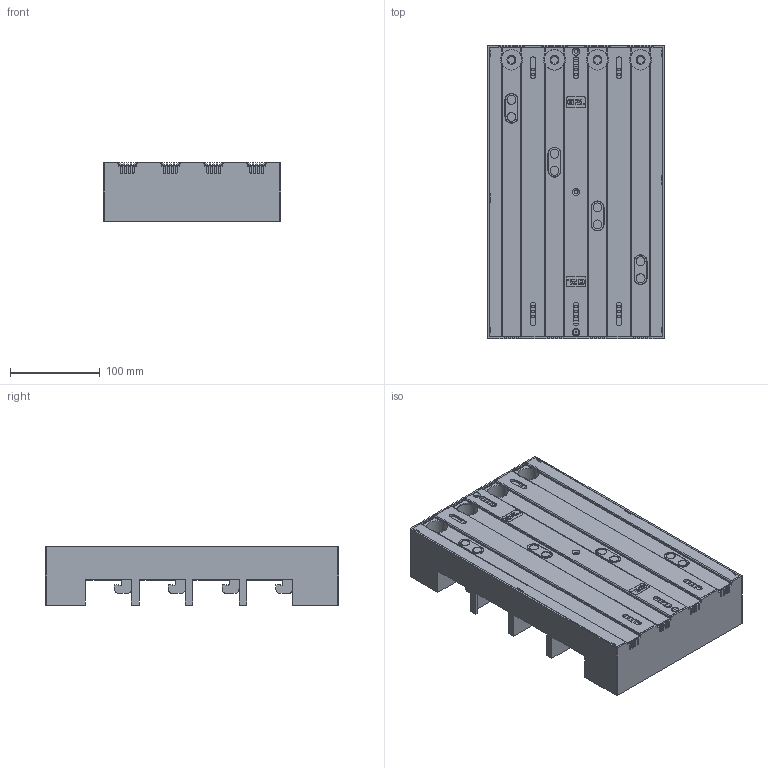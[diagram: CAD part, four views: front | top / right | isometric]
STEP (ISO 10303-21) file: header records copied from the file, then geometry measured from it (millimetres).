
FILE_DESCRIPTION (( 'STEP AP203' ), '1' );
FILE_NAME ('55186.STEP', '2021-09-01T04:45:41', ( '' ), ( '' ), 'SwSTEP 2.0', 'SolidWorks 2017', '' );
FILE_SCHEMA (( 'CONFIG_CONTROL_DESIGN' ));
Products named in the file (2): 55186
Bounding box: 198 x 327 x 65 mm (x, y, z)
Volume: 2320814.7 mm3; surface area: 372641.7 mm2
Topology: 1 solids, 5 shells, 2268 faces, 6471 edges, 4250 vertices
Faces by surface type: plane 1822, cylinder 321, bspline 73, cone 28, sphere 16, torus 8
Full cylindrical faces by diameter (mm): 4 x1, 4.5 x3, 7 x1, 8 x4, 10 x8, 11 x4, 15 x4, 23 x4
Entity records: 79447 total; most frequent: CARTESIAN_POINT 20121, ORIENTED_EDGE 12818, DIRECTION 11402, EDGE_CURVE 6409, LINE 5518, VECTOR 5518, VERTEX_POINT 4241, AXIS2_PLACEMENT_3D 2942
